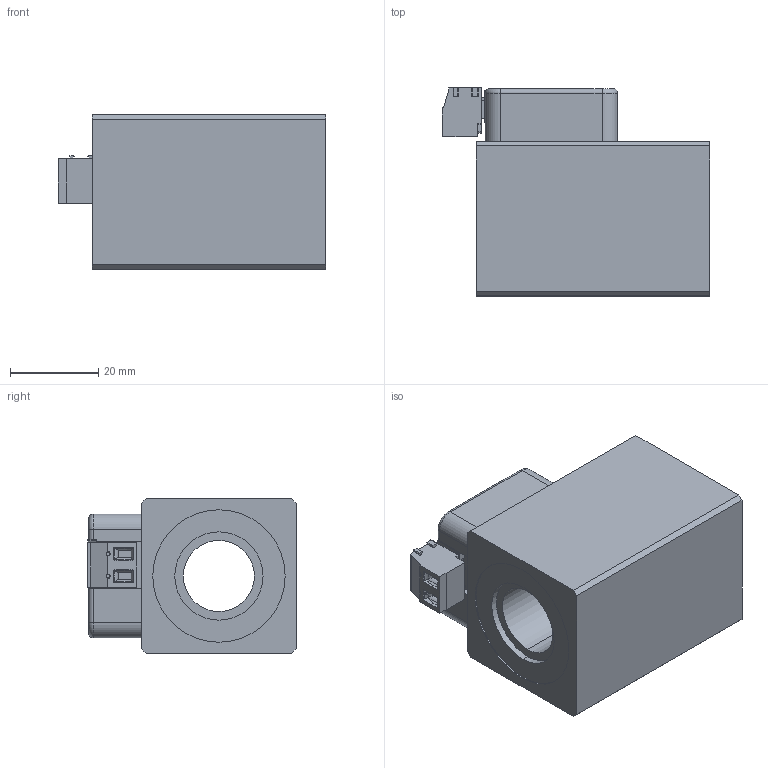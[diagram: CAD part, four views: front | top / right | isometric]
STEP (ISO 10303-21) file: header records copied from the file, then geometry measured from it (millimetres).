
FILE_DESCRIPTION (( 'STEP AP214' ), '1' );
FILE_NAME ('MXS35_16x50-M222a.STEP', '2015-07-07T05:40:14', ( '' ), ( '' ), 'SwSTEP 2.0', 'SolidWorks 2014', '' );
FILE_SCHEMA (( 'AUTOMOTIVE_DESIGN' ));
Length unit declared in the file: millimetre
Products named in the file (2): MXS35_16x50-M222a
Bounding box: 60.7 x 47.2 x 35 mm (x, y, z)
Volume: 64059.4 mm3; surface area: 14746.4 mm2
Topology: 1 solids, 7 shells, 474 faces, 1246 edges, 795 vertices
Faces by surface type: plane 225, cylinder 199, bspline 28, cone 12, torus 10
Entity records: 20746 total; most frequent: CARTESIAN_POINT 4257, ORIENTED_EDGE 2476, DIRECTION 2214, EDGE_CURVE 1238, VERTEX_POINT 795, VECTOR 774, LINE 774, AXIS2_PLACEMENT_3D 720
